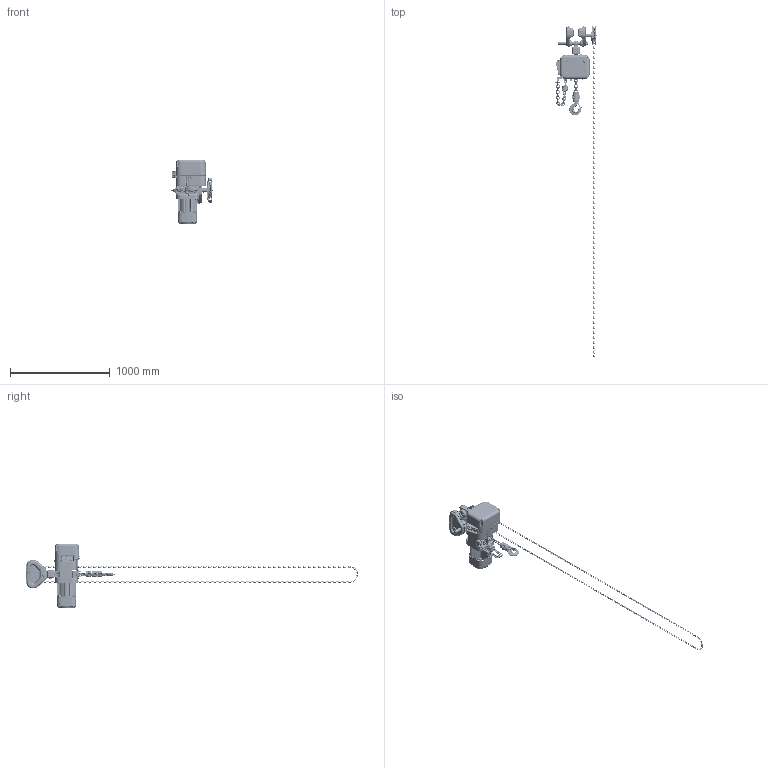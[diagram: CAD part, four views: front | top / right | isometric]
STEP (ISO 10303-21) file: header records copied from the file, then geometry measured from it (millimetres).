
FILE_DESCRIPTION (( 'STEP AP214' ), '1' );
FILE_NAME ('NER2G015S.STEP', '2026-08-04T14:04:48', ( '' ), ( '' ), 'SwSTEP 2.0', 'SolidWorks 2026', '' );
FILE_SCHEMA (( 'AUTOMOTIVE_DESIGN' ));
Length unit declared in the file: inch
Products named in the file (84): T7G115020; ER2CS2564; ER2EL9338; T6GA0209113; T7GA0205112; ER1ES9032; T6GA0209102; T7GA0209142; 9009432_9009432; J1WS011-20100_Rectangular section spring washer BS 4464 - 16 (Type B); T6GA0209103; ENDS2E; T6G123010; NER2G015S; T6G156020; LCER2020NP; ER2ES9186; HCCF005 for GT2020; ER2CS9357; socket head cap screw_am_B18.3.1M - 6 x 1.0 x 12 Hex SHCS -- 12CHX; ER2ES9101; ER2EM9011; E3S111003; LCER2020NP (SHAPED 2); ER2EL9105; T6G5102020; NER2015S_SUSPENDER E FOR GEARED TROLLEY; hexagon slotted nut low_1 small_jis_L4082090; T6GA0209122; ES127005S; GT015_4" FLANGE; ER2BHM15M9A6; 9091234_B18.3.1M - 5 x 0.8 x 45 Hex SHCS -- 22CHX; T7G117020; ER2ES9029; ER2ES9337; socket head cap screw_am_9091274; T6GA0109125; 9009436_9009436; ER1ES9053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
Assembly tree (430 placements, depth 5):
  NER2G015S
    NER2015S_SUSPENDER E FOR GEARED TROLLEY
      ER2ES9104_ER2ES9104
      ER2EL9103
      ER2ES9101
      ER2EL9105
      ER2DS9107_ER2DS9107
      ER2EM1011
        ER2EM9011
        ER2EM1002
        ER2EM2015
          ER2EM9015  x2
          J1BY9-1003526_B18.2.3.1M - Hex cap screw, M10 x 1.5 x 35 --35C  x2
          J1WS011-20100_Rectangular section spring washer BS 4464 - 16 (Type B)  x2
          J1NA001-20100_B18.2.4.1M - Hex nut, Style 1,  M10 x 1.5, with 16mm WAF --D-C  x2
      ER2ES9121  x2
      ER2ES9186
      ER2ES9123
      socket head cap screw_am_B18.3.1M - 6 x 1.0 x 12 Hex SHCS -- 12CHX
      ER2CS9511
      J1BG10604040_J1BG10604040  x4
      90912116_90912116  x4
      9091234_B18.3.1M - 5 x 0.8 x 45 Hex SHCS -- 22CHX  x4
      E3S111003
      E3S112003
      ER1BS9135
      ES127005S
      ER2EL9338
      ER2CS9357
      ER2ES9337
      single coil rectangular section spring washer_bsi_9012711  x4
      socket head cap screw_am_9091274  x4
      LCER2020NP_10 LINKS
        LCER2020NP  x10
      ER2ES2523
      ER2CS2564
      MS561010  x6
      ER2BHM20S9A5
      ER2BHM15M9A6
      ER2ES9331
      ER1BS9535
      M6F554010  x2
      ER1ES9053  x2
      T7GB004020
      ER1ES9032
      ES088020L_ES088020
      9009436_9009436
      ER2ES9029
      LCER2020NP (SHAPED 2)
        LCER2020NP  x23
      ENDS2E
        ER2ES9408
        90912152_B18.3.1M - 8 x 1.25 x 40 Hex SHCS -- 40CHX
        ES857005S
      ER1ES1041
    GT015_4" FLANGE
      T7GA0205112
        T6GA0209112
        T6GA0209113
        T6GA0209103  x2
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Bounding box: 415.05 x 3321.69 x 646 mm (x, y, z)
Volume: 24268342.2 mm3; surface area: 3232974.7 mm2
Topology: 435 solids, 452 shells, 12180 faces, 29795 edges, 18020 vertices
Faces by surface type: cylinder 4225, plane 3428, torus 2868, bspline 762, cone 688, sphere 209
Entity records: 267587 total; most frequent: CARTESIAN_POINT 95676, DIRECTION 34784, ORIENTED_EDGE 34728, EDGE_CURVE 17366, AXIS2_PLACEMENT_3D 13774, VERTEX_POINT 11004, EDGE_LOOP 7332, LINE 7236
